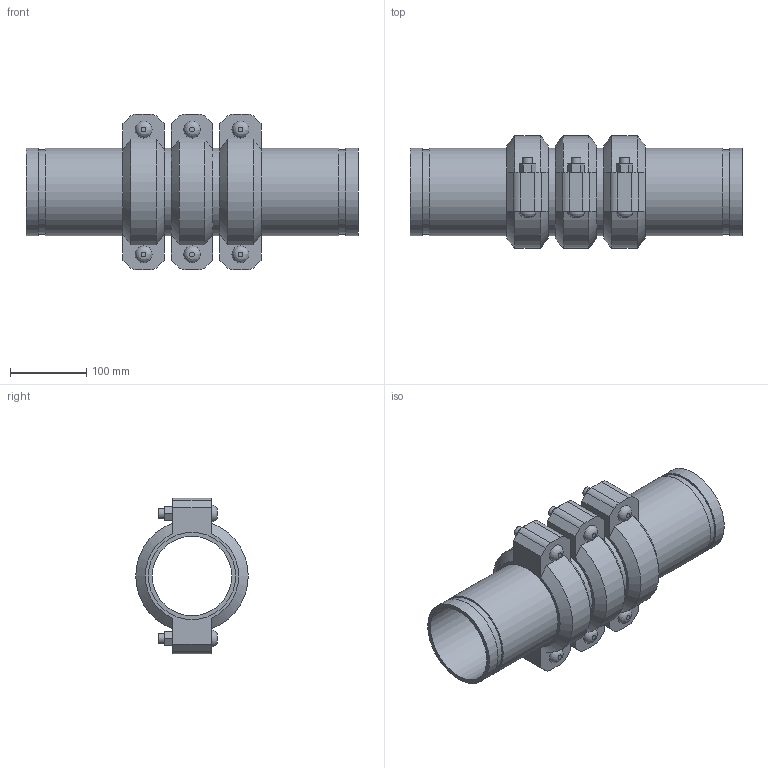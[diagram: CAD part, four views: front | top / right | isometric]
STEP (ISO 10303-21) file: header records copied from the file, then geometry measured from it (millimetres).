
FILE_DESCRIPTION(/* description */ ('VIC SS EXPANSION JOINT 3 COUPLINGS NEUTRAL STYLE 155P (OGS) (POTABLE WATER) ','CAx-IF Rec.Pracs.---Representation and Presentation of Product Manufacturing Information (PMI)---4.0---2014-10-13'),/* implementation_level */ '2;1');
FILE_NAME(/* name */ 'C:\Users\kkamble\AppData\Roaming\Autodesk\ApplicationPlugins\Victaulic.Temp\A227\Victaulic_SS_Expansion Joint_Neutral_3 Couplings_Style 155P (OGS)-Potable Water_3 Coup_Neut_4 (100).stp',/* time_stamp */ '2021-07-16T16:32:19+05:00',/* author */ ('kkamble'),/* organization */ ('Victaulic'),/* preprocessor_version */ 'ST-DEVELOPER v17.2',/* originating_system */ 'Autodesk Inventor 2019',/* authorisation */ '');
FILE_SCHEMA (('AP242_MANAGED_MODEL_BASED_3D_ENGINEERING_MIM_LF { 1 0 10303 442 1 1 4 }'));
Length unit declared in the file: inch
Products named in the file (4): 155P-04.0; Nipple-04.0; Nipple-04.0_1; 075-04.0
Assembly tree (7 placements, depth 2):
  155P-04.0
    Nipple-04.0  x2
    Nipple-04.0_1  x2
    075-04.0  x3
Bounding box: 434.59 x 147.32 x 203.96 mm (x, y, z)
Volume: 2146141.2 mm3; surface area: 550881.9 mm2
Topology: 7 solids, 13 shells, 219 faces, 519 edges, 366 vertices
Faces by surface type: plane 132, cylinder 69, cone 12, bspline 6
Full cylindrical faces by diameter (mm): 12.7 x12, 14.605 x6, 103.988 x4, 107.95 x3, 110.084 x8, 114.3 x18
Entity records: 2769 total; most frequent: CARTESIAN_POINT 491, DIRECTION 457, ORIENTED_EDGE 386, EDGE_CURVE 193, AXIS2_PLACEMENT_3D 182, VERTEX_POINT 138, EDGE_LOOP 107, LINE 93
